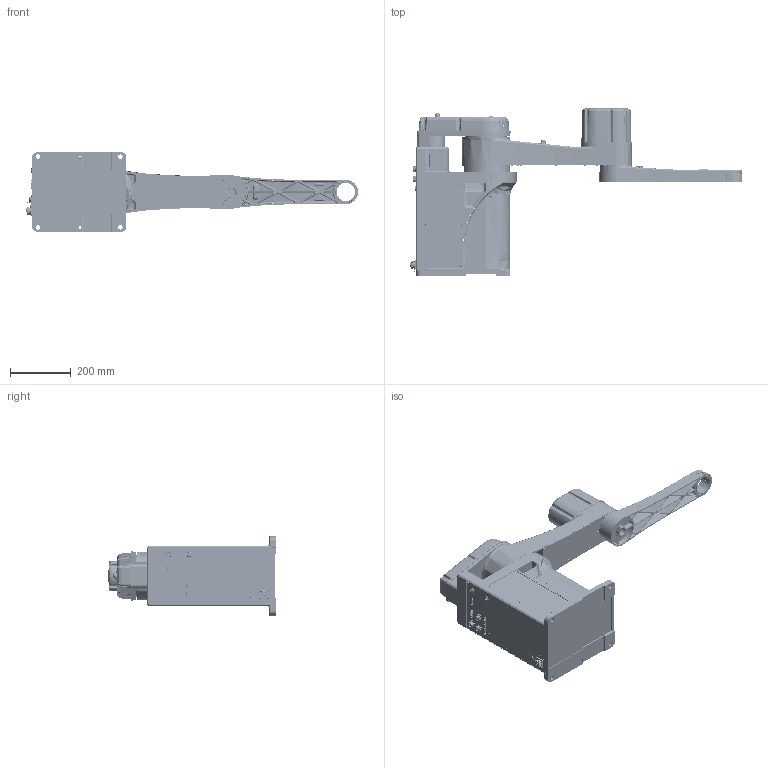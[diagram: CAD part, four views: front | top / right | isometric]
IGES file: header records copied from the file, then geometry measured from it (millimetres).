
Start section: SolidWorks IGES file using analytic representation for surfaces
Global section: file name: D:\QKM_PDM\01_SP研发\043HM3\05_对外发布模型\HM3-0800-0652-0000\IGS\HM3-0800-0652-0000-V1.0.IGS; native system: SolidWorks 2017; preprocessor: SolidWorks 2017; author: 0741; date: 211209.140743; units: millimetre
Bounding box: 1089.6 x 552 x 260 mm (x, y, z)
Surface area: 1365003.1 mm2 (no closed solid volume)
Topology: 0 solids, 0 shells, 4795 faces, 58684 edges, 58541 vertices
Faces by surface type: bspline 2856, revolution 1939
